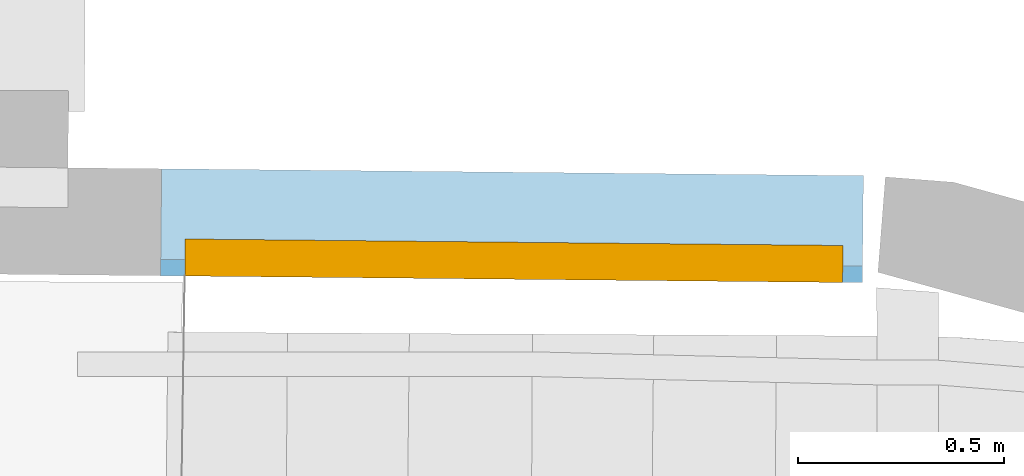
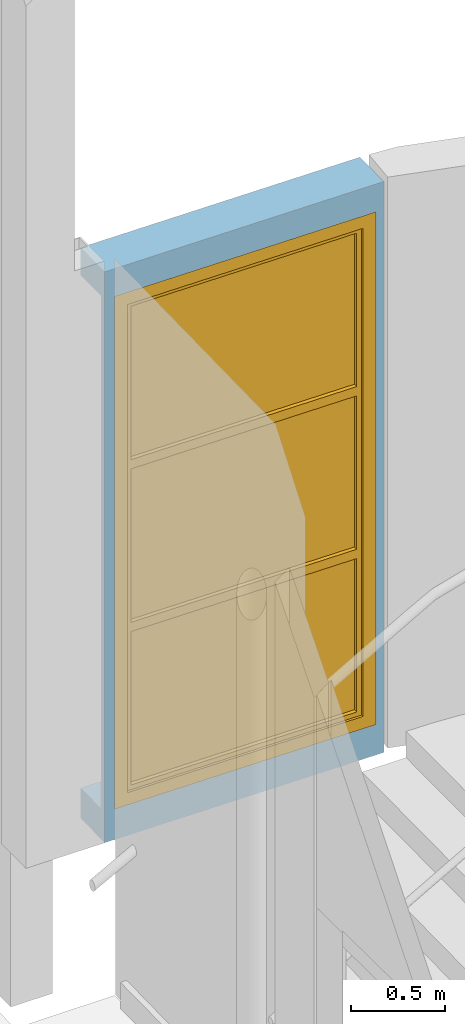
# One storey, part 60 of 97: 1 window, 1 opening, plus 1 element that does not belong to this part.
"""IFC2X3 building model written with IfcOpenShell, lengths in centimetres."""

from ifc_helpers import new_model, entity, si_unit, converted_unit, direction, frame, origin, origin_with_axes, origin_2d_with_axis, place, context, subcontext, project, spatial, rectangle, extrude, faceted_brep, shape, source, transform, mapped, material, material_list, layer, layer_set, layer_usage, type_object, element, fill, save


model = new_model("IFC2X3")

# Units and contexts
model_context = context("Model", 3, precision=0.0001, world=origin(), true_north=direction((0.225632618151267, 0.974212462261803, 0.0)))
body_context = subcontext(model_context, "Body", "Model", "MODEL_VIEW")
footprint_context = subcontext(model_context, "FootPrint", "Model", "MODEL_VIEW")
profile_context = subcontext(model_context, "Profile", "Model", "MODEL_VIEW")
ifc_project = project(units=[si_unit("LENGTHUNIT", "METRE", prefix="CENTI"), si_unit("AREAUNIT", "SQUARE_METRE", prefix="CENTI"), si_unit("VOLUMEUNIT", "CUBIC_METRE", prefix="CENTI"), converted_unit("PLANEANGLEUNIT", "DEGREE", entity("IfcRatioMeasure", 0.0174532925), si_unit("PLANEANGLEUNIT", "RADIAN"), dimensions=[0, 0, 0, 0, 0, 0, 0])], contexts=[model_context])

# Site, building, storey
site_placement = place(None, origin_with_axes())
site = spatial("IfcSite", under=ifc_project, at=site_placement, Name="Default Site", CompositionType="ELEMENT")
building_placement = place(site_placement, origin_with_axes())
building = spatial("IfcBuilding", under=site, at=building_placement, Name="Default Building", CompositionType="ELEMENT")
storey_placement = place(building_placement, origin_with_axes())
storey = spatial("IfcBuildingStorey", under=building, at=storey_placement, Name="Rez-de-chaussée", CompositionType="ELEMENT", Elevation=0.0)

# Wall, opening, window
ifc_material_1 = material(Name="<aucun>")
ifc_layer = layer(ifc_material_1, 26.0)
ifc_layer_set = layer_set([ifc_layer], Name="default")
ifc_layer_usage = layer_usage(ifc_layer_set, "AXIS2", "POSITIVE", -13.0)
wall_type = type_object("IfcWallType", Name="default 260", PredefinedType="NOTDEFINED", material=ifc_layer_set)
wall_placement = place(storey_placement, frame((1291.15030565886, -210.44632109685, 100.0), z_axis=(0.0, 0.0, 1.0), x_axis=(-0.999951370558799, 0.00986187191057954, 0.0)))
wall = element("IfcWallStandardCase", 1, at=wall_placement, inside=storey, type_object=wall_type, material=ifc_layer_usage, Name="Enveloppe 531206", context=body_context, shape_type="SweptSolid", body=[
    extrude(rectangle(XDim=26.0, YDim=170.571765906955, at=origin_2d_with_axis()), frame((87.0614002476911, -0.000168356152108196, 0.0), z_axis=(0.0, 0.0, 1.0), x_axis=(-8.67361737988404e-18, -1.0, 0.0)), (0.0, 0.0, 1.0), 370.795358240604),
])
opening_placement = place(wall_placement, frame((0.56850959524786, -2.8421709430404e-14, 19.7999999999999), z_axis=(0.0, 0.0, 1.0), x_axis=(-1.0, -5.95530569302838e-15, 0.0)))
cartesian_point_1 = entity("IfcCartesianPoint", [0.0, 0.0, 333.0])
cartesian_point_2 = entity("IfcCartesianPoint", [-171.904604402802, -13.0])
opening = element("IfcOpeningElement", 2, at=opening_placement, cuts=wall, Name="4294966542_11", ObjectType="Opening", shapes=[
    shape(body_context, "Body", "Brep", [faceted_brep([(-6.0000248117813, -32.9999884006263, 332.999987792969), (-165.904651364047, -32.9999884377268, 332.999987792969), (-165.904651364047, -32.9999884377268, -4.57763671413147e-06), (-6.0000248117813, -32.9999884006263, -4.57763671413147e-06), (2.21615607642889e-05, 32.9999953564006, -4.57763671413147e-06), (-171.904604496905, 32.999995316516, -4.57763671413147e-06), (-171.904604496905, 32.999995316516, 332.999987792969), (2.21615607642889e-05, 32.9999953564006, 332.999987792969), (-6.00002481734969, -8.99998842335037, -4.57763671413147e-06), (-6.00002481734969, -8.99998842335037, 332.999987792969), (-6.00000777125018, -8.99998842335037, 332.999987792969), (-6.00000777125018, -8.99998842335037, -4.57763671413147e-06), (3.99044656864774e-05, -8.99998842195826, -4.57763671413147e-06), (3.99044656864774e-05, -8.99998842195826, 332.999987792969), (3.99044656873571e-05, -8.99999221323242, 332.999987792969), (3.99044658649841e-05, -8.99999221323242, -4.57763671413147e-06), (3.98947211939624e-05, 32.9999953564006, -4.57763671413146e-06), (3.98947210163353e-05, 32.9999953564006, 332.999987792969), (-165.904651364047, -32.9999991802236, -4.57763671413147e-06), (-165.904634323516, -8.99999920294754, -4.57763671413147e-06), (-171.904586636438, -8.99999447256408, -4.57763671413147e-06), (-171.904604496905, 33.0000050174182, -4.57763671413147e-06), (3.99044656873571e-05, -8.99999221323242, -4.57763671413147e-06), (-165.904651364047, -32.9999991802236, 332.999987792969), (-165.904651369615, -8.99999920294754, 332.999987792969), (-165.904651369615, -8.99999920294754, -4.57763671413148e-06), (-165.904634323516, -8.99999920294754, 332.999987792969), (-171.904586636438, -8.99999920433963, 332.999987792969), (-171.904586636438, -8.99999920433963, -4.57763671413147e-06), (-171.904586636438, -8.99999447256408, 332.999987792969), (-171.904586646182, 33.0000050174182, 332.999987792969), (-171.904586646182, 33.0000050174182, -4.57763671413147e-06), (-171.904604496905, 33.0000050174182, 332.999987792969)], [[[0, 1, 2, 3]], [[4, 5, 6, 7]], [[0, 3, 8, 9]], [[10, 11, 12, 13]], [[14, 15, 16, 17]], [[3, 18, 19, 20, 21, 4, 22, 11]], [[18, 23, 24, 25]], [[19, 26, 27, 28]], [[20, 29, 30, 31]], [[10, 14, 7, 32, 29, 26, 23, 0]]])]),
    shape(profile_context, "Profile", "GeometricCurveSet", [entity("IfcGeometricCurveSet", [entity("IfcPolyline", [cartesian_point_1, entity("IfcCartesianPoint", [0.0, 0.0, -2.22044604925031e-14]), entity("IfcCartesianPoint", [-171.904604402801, -2.22044604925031e-14, -2.22044604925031e-14]), entity("IfcCartesianPoint", [-171.904604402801, -2.22044604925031e-14, 333.0]), cartesian_point_1])])]),
    shape(footprint_context, "FootPrint", "GeometricCurveSet", [entity("IfcGeometricCurveSet", [entity("IfcPolyline", [cartesian_point_2, entity("IfcCartesianPoint", [-1.77635683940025e-13, -13.0]), entity("IfcCartesianPoint", [0.0, 13.0]), entity("IfcCartesianPoint", [-171.904604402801, 13.0]), cartesian_point_2])])]),
])
ifc_material_2 = material(Name="Transparent")
ifc_material_3 = material(Name="Blanc trafic")
ifc_material_list = material_list([ifc_material_2, ifc_material_3])
window_style = type_object("IfcWindowStyle", Name="Fn 1 montant fixe 2 vitres ép 90", ConstructionType="NOTDEFINED", OperationType="TRIPLE_PANEL_HORIZONTAL", ParameterTakesPrecedence=True, Sizeable=False, material=ifc_material_list)
shared_shape = source(origin_with_axes(), body_context, "Body", "Brep", [
    faceted_brep([(-71.9523012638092, 325.0, -4.50000017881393), (-71.9523012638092, 325.0, 4.50000017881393), (-71.9523012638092, 7.99999982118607, 4.50000017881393), (-71.9523012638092, 7.99999982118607, -4.50000017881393), (-79.9522995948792, 332.999992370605, 4.50000017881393), (-79.9522995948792, 0.0, 4.50000017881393), (-79.9522995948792, 332.999992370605, -4.50000017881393), (-79.9522995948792, 3.70148697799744e-31, -4.50000017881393), (-79.9522995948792, 3.70148697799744e-31, 4.50000017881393), (-79.9522995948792, 0.0, -4.50000017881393), (71.9523012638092, 7.99999982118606, 4.50000017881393), (71.9523012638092, 7.99999982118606, -4.50000017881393), (79.9522995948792, 0.0, 4.50000017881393), (71.9523012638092, 7.99999982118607, 4.50000017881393), (79.9522995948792, 0.0, -4.50000017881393), (71.9523012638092, 7.99999982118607, -4.50000017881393), (71.9523012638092, 325.0, 4.50000017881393), (71.9523012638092, 325.0, -4.50000017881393), (79.9522995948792, 332.999992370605, 4.50000017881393), (79.9522995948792, 332.999992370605, -4.50000017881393)], [[[0, 1, 2, 3]], [[1, 4, 5, 2]], [[4, 6, 7, 8]], [[6, 0, 3, 9]], [[3, 2, 10, 11]], [[2, 5, 12, 13]], [[5, 9, 14, 12]], [[9, 3, 15, 14]], [[15, 13, 16, 17]], [[13, 12, 18, 16]], [[12, 14, 19, 18]], [[14, 15, 17, 19]], [[17, 16, 1, 0]], [[16, 18, 4, 1]], [[18, 19, 6, 4]], [[19, 17, 0, 6]]]),
    faceted_brep([(-68.9523041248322, 322.000002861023, -2.99999993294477), (-68.9523041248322, 322.000002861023, 2.99999993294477), (-68.9523041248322, 222.333335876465, 2.99999993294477), (-68.9523041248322, 222.333335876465, -2.99999993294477), (-71.9523012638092, 325.0, 2.99999993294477), (-71.9523012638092, 219.333338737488, 2.99999993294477), (-71.9523012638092, 325.0, -2.99999993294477), (-71.9523012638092, 219.333338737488, -2.99999993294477), (68.9523041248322, 222.333335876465, 2.99999993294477), (68.9523041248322, 222.333335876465, -2.99999993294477), (71.9523012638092, 219.333338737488, 2.99999993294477), (71.9523012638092, 219.333338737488, -2.99999993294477), (68.9523041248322, 322.000002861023, 2.99999993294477), (68.9523041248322, 322.000002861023, -2.99999993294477), (71.9523012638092, 325.0, 2.99999993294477), (71.9523012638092, 325.0, -2.99999993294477)], [[[0, 1, 2, 3]], [[1, 4, 5, 2]], [[4, 6, 7, 5]], [[6, 0, 3, 7]], [[3, 2, 8, 9]], [[2, 5, 10, 8]], [[5, 7, 11, 10]], [[7, 3, 9, 11]], [[9, 8, 12, 13]], [[8, 10, 14, 12]], [[10, 11, 15, 14]], [[11, 9, 13, 15]], [[13, 12, 1, 0]], [[12, 14, 4, 1]], [[14, 15, 6, 4]], [[15, 13, 0, 6]]]),
    faceted_brep([(68.9523041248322, 322.000002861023, -0.499999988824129), (68.9523041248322, 222.333335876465, -0.499999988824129), (-68.9523041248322, 222.333335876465, -0.499999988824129), (-68.9523041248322, 322.000002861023, -0.499999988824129), (-68.9523041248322, 322.000002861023, 0.499999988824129), (-68.9523041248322, 222.333335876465, 0.499999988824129), (68.9523041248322, 222.333335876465, 0.499999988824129), (68.9523041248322, 322.000002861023, 0.499999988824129)], [[[0, 1, 2, 3]], [[4, 5, 6, 7]], [[3, 2, 5, 4]], [[2, 1, 6, 5]], [[1, 0, 7, 6]], [[0, 3, 4, 7]]]),
    faceted_brep([(-68.9523041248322, 216.333341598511, -2.99999993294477), (-68.9523041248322, 216.333341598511, 2.99999993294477), (-68.9523041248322, 116.666662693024, 2.99999993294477), (-68.9523041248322, 116.666662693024, -2.99999993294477), (-71.9523012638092, 219.333338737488, 2.99999993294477), (-71.9523012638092, 113.666665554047, 2.99999993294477), (-71.9523012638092, 219.333338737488, -2.99999993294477), (-71.9523012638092, 113.666665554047, -2.99999993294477), (68.9523041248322, 116.666662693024, 2.99999993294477), (68.9523041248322, 116.666662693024, -2.99999993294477), (71.9523012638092, 113.666665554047, 2.99999993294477), (71.9523012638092, 113.666665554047, -2.99999993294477), (68.9523041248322, 216.333341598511, 2.99999993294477), (68.9523041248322, 216.333341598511, -2.99999993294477), (71.9523012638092, 219.333338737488, 2.99999993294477), (71.9523012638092, 219.333338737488, -2.99999993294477)], [[[0, 1, 2, 3]], [[1, 4, 5, 2]], [[4, 6, 7, 5]], [[6, 0, 3, 7]], [[3, 2, 8, 9]], [[2, 5, 10, 8]], [[5, 7, 11, 10]], [[7, 3, 9, 11]], [[9, 8, 12, 13]], [[8, 10, 14, 12]], [[10, 11, 15, 14]], [[11, 9, 13, 15]], [[13, 12, 1, 0]], [[12, 14, 4, 1]], [[14, 15, 6, 4]], [[15, 13, 0, 6]]]),
    faceted_brep([(68.9523041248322, 216.333341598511, -0.499999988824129), (68.9523041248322, 116.666662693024, -0.499999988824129), (-68.9523041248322, 116.666662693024, -0.499999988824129), (-68.9523041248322, 216.333341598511, -0.499999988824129), (-68.9523041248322, 216.333341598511, 0.499999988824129), (-68.9523041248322, 116.666662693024, 0.499999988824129), (68.9523041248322, 116.666662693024, 0.499999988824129), (68.9523041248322, 216.333341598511, 0.499999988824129)], [[[0, 1, 2, 3]], [[4, 5, 6, 7]], [[3, 2, 5, 4]], [[2, 1, 6, 5]], [[1, 0, 7, 6]], [[0, 3, 4, 7]]]),
    faceted_brep([(-68.9523041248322, 110.66666841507, -2.99999993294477), (-68.9523041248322, 110.66666841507, 2.99999993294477), (-68.9523041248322, 10.9999999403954, 2.99999993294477), (-68.9523041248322, 10.9999999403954, -2.99999993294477), (-71.9523012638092, 113.666665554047, 2.99999993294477), (-71.9523012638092, 7.99999982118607, 2.99999993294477), (-71.9523012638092, 113.666665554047, -2.99999993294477), (-71.9523012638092, 7.99999982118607, -2.99999993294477), (68.9523041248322, 10.9999999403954, 2.99999993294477), (68.9523041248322, 10.9999999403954, -2.99999993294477), (71.9523012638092, 7.99999982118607, 2.99999993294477), (71.9523012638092, 7.99999982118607, -2.99999993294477), (68.9523041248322, 110.66666841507, 2.99999993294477), (68.9523041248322, 110.66666841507, -2.99999993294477), (71.9523012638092, 113.666665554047, 2.99999993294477), (71.9523012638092, 113.666665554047, -2.99999993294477)], [[[0, 1, 2, 3]], [[1, 4, 5, 2]], [[4, 6, 7, 5]], [[6, 0, 3, 7]], [[3, 2, 8, 9]], [[2, 5, 10, 8]], [[5, 7, 11, 10]], [[7, 3, 9, 11]], [[9, 8, 12, 13]], [[8, 10, 14, 12]], [[10, 11, 15, 14]], [[11, 9, 13, 15]], [[13, 12, 1, 0]], [[12, 14, 4, 1]], [[14, 15, 6, 4]], [[15, 13, 0, 6]]]),
    faceted_brep([(68.9523041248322, 110.66666841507, -0.499999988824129), (68.9523041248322, 10.9999999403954, -0.499999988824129), (-68.9523041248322, 10.9999999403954, -0.499999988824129), (-68.9523041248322, 110.66666841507, -0.499999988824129), (-68.9523041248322, 110.66666841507, 0.499999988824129), (-68.9523041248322, 10.9999999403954, 0.499999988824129), (68.9523041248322, 10.9999999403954, 0.499999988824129), (68.9523041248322, 110.66666841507, 0.499999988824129)], [[[0, 1, 2, 3]], [[4, 5, 6, 7]], [[3, 2, 5, 4]], [[2, 1, 6, 5]], [[1, 0, 7, 6]], [[0, 3, 4, 7]]]),
])
window_placement = place(opening_placement, frame((-165.904604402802, -13.0, 0.0), z_axis=(0.0, 0.0, 1.0), x_axis=(1.0, 0.0, 0.0)))
window = element("IfcWindow", 3, at=window_placement, inside=storey, type_object=window_style, material=ifc_material_list, Name="Fenêtre 531873", OverallHeight=333.0, OverallWidth=159.904604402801, context=body_context, shape_type="MappedRepresentation", body=[
    mapped(shared_shape, transform((79.9523022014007, 4.49999999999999, 0.0), x_axis=(-1.0, 0.0, 0.0), y_axis=(0.0, 0.0, 1.0), z_axis=(0.0, 1.0, 0.0), scale=1.0, scale2=1.0, scale3=1.0, uniform=False)),
])
fill(opening, window)

save(model, "model.ifc")
